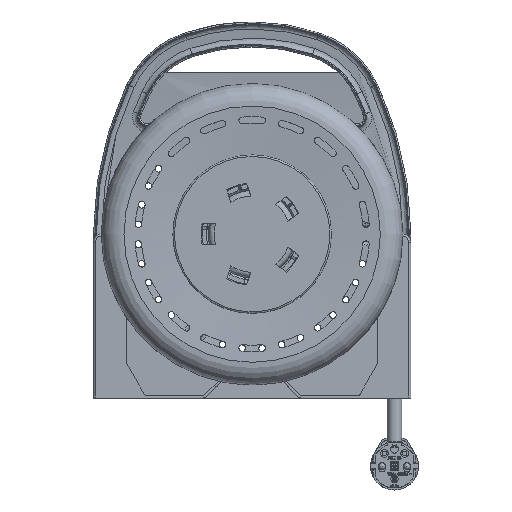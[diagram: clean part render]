
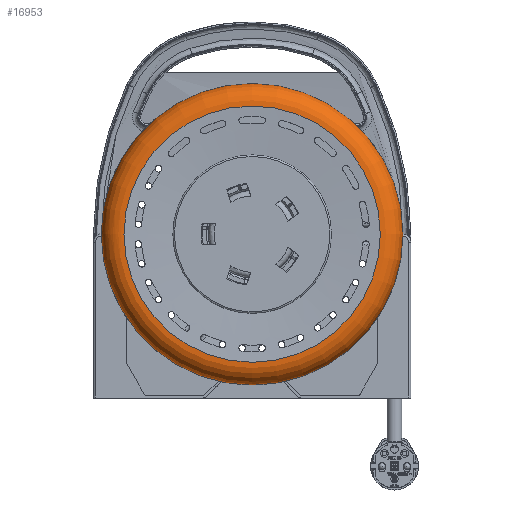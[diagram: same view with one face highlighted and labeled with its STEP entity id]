
A CAD part, top view. The second image highlights one B-rep face of the part: STEP entity #16953.
In plain terms, the highlighted toroidal (fillet/blend) face has major radius 99 mm and minor radius 16 mm.
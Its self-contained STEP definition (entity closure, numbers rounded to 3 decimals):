
#580=TOROIDAL_SURFACE('',#56559,99.,16.);
#16953=ADVANCED_FACE('',(#20521,#20522),#580,.T.);
#20521=FACE_BOUND('',#21479,.T.);
#20522=FACE_BOUND('',#21480,.T.);
#21479=EDGE_LOOP('',(#26146));
#21480=EDGE_LOOP('',(#26147));
#26146=ORIENTED_EDGE('',*,*,#47160,.F.);
#26147=ORIENTED_EDGE('',*,*,#47256,.F.);
#41525=VERTEX_POINT('',#78351);
#41621=VERTEX_POINT('',#79626);
#47160=EDGE_CURVE('',#41525,#41525,#54582,.T.);
#47256=EDGE_CURVE('',#41621,#41621,#54632,.T.);
#54582=CIRCLE('',#56452,115.);
#54632=CIRCLE('',#56505,97.787);
#56452=AXIS2_PLACEMENT_3D('',#78350,#61645,#61646);
#56505=AXIS2_PLACEMENT_3D('',#79625,#61761,#61762);
#56559=AXIS2_PLACEMENT_3D('',#80930,#61875,#61876);
#61645=DIRECTION('',(0.,0.,-1.));
#61646=DIRECTION('',(-1.,0.,0.));
#61761=DIRECTION('',(0.,0.,1.));
#61762=DIRECTION('',(-1.,0.,0.));
#61875=DIRECTION('',(0.,0.,-1.));
#61876=DIRECTION('',(-1.,0.,0.));
#78350=CARTESIAN_POINT('',(0.,0.,30.632));
#78351=CARTESIAN_POINT('',(-115.,0.,30.632));
#79625=CARTESIAN_POINT('',(0.,0.,46.585));
#79626=CARTESIAN_POINT('',(-97.787,0.,46.585));
#80930=CARTESIAN_POINT('',(0.,0.,30.632));
